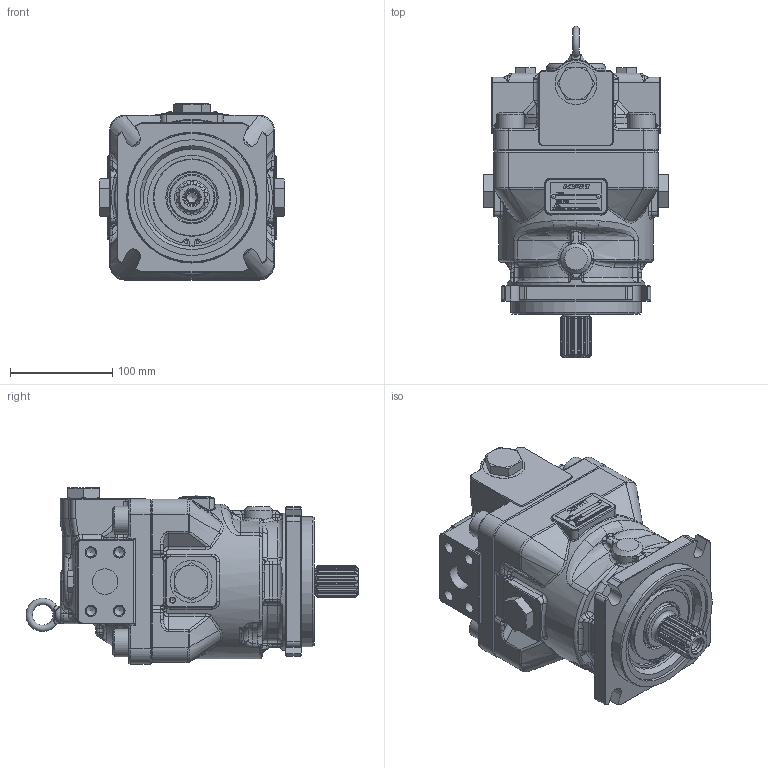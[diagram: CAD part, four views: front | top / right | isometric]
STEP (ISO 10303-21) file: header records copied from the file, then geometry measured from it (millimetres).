
FILE_DESCRIPTION(/* description */ (''),/* implementation_level */ '2;1');
FILE_NAME(/* name */ 'O:\80_個人\10_入業者\林\\X2\63D051FA30C730FC30BF\X0\\2020年度\2020.10.16-M7X85,112\X2\591689B3\X0\-第二回\M7X85AB19.stp',/* time_stamp */ '2020-10-05T16:02:31+09:00',/* author */ ('PG14415'),/* organization */ (''),/* preprocessor_version */ 'ST-DEVELOPER v16.5',/* originating_system */ 'Autodesk Inventor 2017',/* authorisation */ '');
FILE_SCHEMA (('AUTOMOTIVE_DESIGN { 1 0 10303 214 3 1 1 }'));
Products named in the file (1): Part7
Bounding box: 181.02 x 324.25 x 172.01 mm (x, y, z)
Volume: 4529474.4 mm3; surface area: 240243.2 mm2
Topology: 1 solids, 11 shells, 1961 faces, 4819 edges, 2920 vertices
Faces by surface type: plane 841, cylinder 426, bspline 344, cone 173, torus 124, sphere 53
Full cylindrical faces by diameter (mm): 2.13 x2, 2.2 x4, 2.5 x2, 3 x1, 5 x2, 6 x3, 6.647 x2, 9.144 x8, 10.106 x1, 11.1 x8, 12 x1, 14 x1, 18 x4, 20 x4, 24 x2, 25 x2, 26 x1, 27 x4, 29 x4, 30 x2, 41 x3, 45 x1, 49 x1, 74 x1, 75.5 x1, 95 x2, 98.5 x1, 113 x1, 127 x1, 134 x1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
Entity records: 66335 total; most frequent: CARTESIAN_POINT 20973, ORIENTED_EDGE 9148, DIRECTION 8516, EDGE_CURVE 4574, AXIS2_PLACEMENT_3D 3104, VERTEX_POINT 2851, LINE 2308, VECTOR 2308
